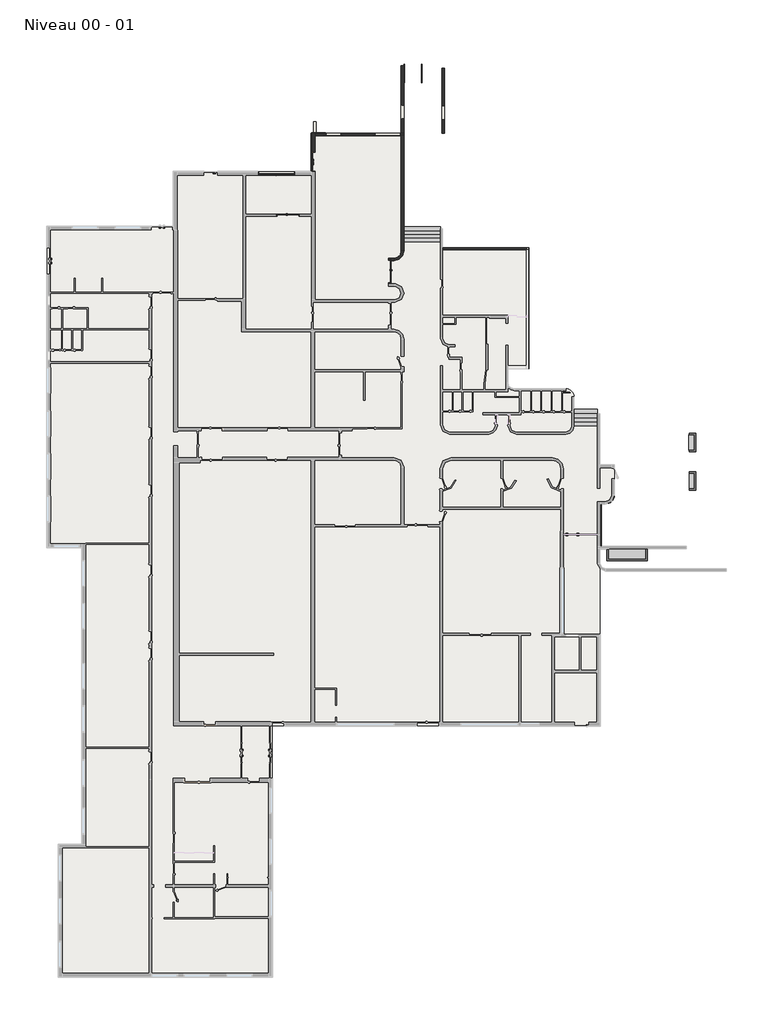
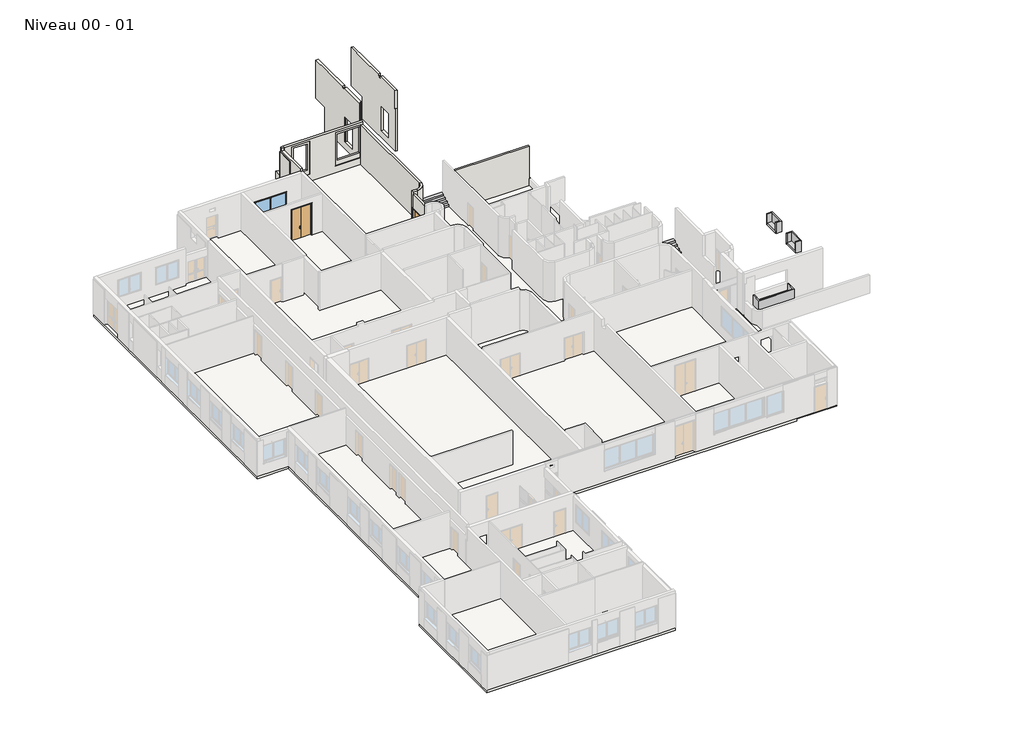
# One storey, part 8 of 8: 12 walls, 3 doors, 3 slabs, 2 railings, 2 stair flights, 1 proxy, 1 window.
"""IFC4 building model written with IfcOpenShell, lengths in millimetres."""

from ifc_helpers import new_model, si_unit, point, frame, frame_2d, origin, place, context, project, spatial, polyline, circle_curve, trimmed, segment, composite_curve, outline, extrude, faceted_brep, transform, mapped, element, save
from ifc_brep_helpers import plane_surface, cylinder_surface, revolved_surface, advanced_brep
from components import generic_models_9b63c0fc, door_1_43m_x_2_20m_f836d71d, double_r_1_73m_x_2_10m_c7e8f5c4, double_r_1_73m_x_2_9m_4bc1b3c2, au_mur_dd5918b3, au_mur_51ce0c62, window_280_x_220h_84bf4a63

model = new_model("IFC4")

# Units and contexts
model_context = context("Model", 3, world=origin())
ifc_project = project(units=[si_unit("LENGTHUNIT", "METRE", prefix="MILLI")], contexts=[model_context])

# Site, building, storey
site = spatial("IfcSite", under=ifc_project)
building = spatial("IfcBuilding", under=site)
storey = spatial("IfcBuildingStorey", under=building, Name="Niveau 00 - 01", Elevation=253.3082742)

# Proxy
placement = place(None, origin())
generic_models_shape = generic_models_9b63c0fc(model_context)
element("IfcBuildingElementProxy", 1, Name="Modèles génériques 3 : Modèles génériques 3", ObjectType="Modèles génériques 3 : Modèles génériques 3", at=placement, inside=storey, context=model_context, shape_type="MappedRepresentation", body=[
    mapped(generic_models_shape, transform((0.0, 0.0, 0.0), x_axis=(1.0, 0.0, 0.0), y_axis=(0.0, 1.0, 0.0), z_axis=(0.0, 0.0, 1.0))),
])

# Doors
door_1_43m_x_2_20m_shape = door_1_43m_x_2_20m_f836d71d(model_context)
element("IfcDoor", 2, ObjectType="PVC Double - Panneaux vitrés haut : 1.43m x 2.20m", at=placement, inside=storey, context=model_context, shape_type="MappedRepresentation", body=[
    mapped(door_1_43m_x_2_20m_shape, transform((-25653.9891729, 8582.6789506, 253.3082742), x_axis=(0.0, -1.0, 0.0), y_axis=(1.0, 0.0, 0.0), z_axis=(0.0, 0.0, 1.0))),
])
double_r_1_73m_x_2_10m_shape = double_r_1_73m_x_2_10m_c7e8f5c4(model_context)
element("IfcDoor", 3, ObjectType="Double (R) : 1.73m x 2.10m", at=placement, inside=storey, context=model_context, shape_type="MappedRepresentation", body=[
    mapped(double_r_1_73m_x_2_10m_shape, transform((-19823.4631762, 192.6117361, 253.3082742), x_axis=(0.0, 1.0, 0.0), y_axis=(-1.0, 0.0, 0.0), z_axis=(0.0, 0.0, 1.0))),
])
double_r_1_73m_x_2_9m_shape = double_r_1_73m_x_2_9m_4bc1b3c2(model_context)
element("IfcDoor", 4, ObjectType="Double (R) : 1.73m x 2.9m", at=placement, inside=storey, context=model_context, shape_type="MappedRepresentation", body=[
    mapped(double_r_1_73m_x_2_9m_shape, transform((-27603.9891728, 4497.0525562, 253.3082742), x_axis=(-1.0, -6.1910359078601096e-12, 0.0), y_axis=(6.1910359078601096e-12, -1.0, 0.0), z_axis=(0.0, 0.0, 1.0))),
])

# Railings
au_mur_shape = au_mur_dd5918b3(model_context)
element("IfcRailing", 5, ObjectType="Au Mur", at=placement, inside=storey, context=model_context, shape_type="MappedRepresentation", body=[
    mapped(au_mur_shape, transform((0.0, 0.0, 0.0), x_axis=(1.0, 0.0, 0.0), y_axis=(0.0, 1.0, 0.0), z_axis=(0.0, 0.0, 1.0))),
])
au_mur_2_shape = au_mur_51ce0c62(model_context)
element("IfcRailing", 6, ObjectType="Au Mur", at=placement, inside=storey, context=model_context, shape_type="MappedRepresentation", body=[
    mapped(au_mur_2_shape, transform((0.0, 0.0, 0.0), x_axis=(1.0, 0.0, 0.0), y_axis=(0.0, 1.0, 0.0), z_axis=(0.0, 0.0, 1.0))),
])

# Slabs
element("IfcSlab", 7, ObjectType="Dalle béton 250mm", at=placement, inside=storey, context=model_context, shape_type="SweptSolid", body=[
    extrude(outline(polyline([(-3752.669714, -34509.054307), (-7215.9483335, -34509.054307), (-7215.9483335, -30289.0543065), (-3752.669714, -30289.0543065), (-3752.669714, -34509.054307)])), frame((0.0, 0.0, 163.3082742), z_axis=(0.0, 0.0, 1.0), x_axis=(1.0, 0.0, 0.0)), (0.0, 0.0, 1.0), 250.0),
])
element("IfcSlab", 8, ObjectType="Dalle béton 250mm", at=placement, inside=storey, context=model_context, shape_type="SweptSolid", body=[
    extrude(outline(composite_curve([segment(polyline([(-3752.669714, -27517.519909), (-7215.9483335, -27517.519909), (-7215.9483335, -34509.054307), (-28823.0967815, -34509.054307), (-28823.0967815, -53701.1523244), (-45141.7005236, -53701.1523244), (-45141.7005236, -43617.1378769), (-43342.9002047, -43617.1378748), (-43342.9002047, -20866.6974201), (-46039.2374821, -20866.6974201), (-46039.2374821, 3664.644505), (-36383.9891745, 3664.644505), (-36383.9891745, 7822.6789506), (-25843.9891757, 7822.6789506), (-25843.9891757, 10750.8848592), (-18744.0938635, 10750.8848592), (-18744.0938635, 2894.3371166), (-15793.9891644, 2894.3371166), (-15793.9891644, 2020.9456807), (-9165.1685034, 2020.9456807), (-9165.1685034, -7221.1974072), (-10793.98917, -7221.1974072), (-10793.98917, -8771.2578612), (-6344.1439275, -8771.2578612)]), True, "CONTINUOUS"), segment(trimmed(circle_curve(frame_2d((-6342.6236695, -9370.1262083)), 598.8702767), [point((-6344.1439275, -8771.2578612))], [point((-5743.7533928, -9370.1262083))], False, "CARTESIAN"), True, "CONTINUOUS"), segment(polyline([(-5743.7533928, -9370.1262083), (-5743.7533928, -11150.4906117), (-3743.9891754, -11150.4906117), (-3743.9891754, -14590.322552), (-2632.6697104, -14590.322552), (-2632.6697104, -16886.0422479)]), True, "CONTINUOUS"), segment(trimmed(circle_curve(frame_2d((-3332.6697103, -16886.0422479)), 699.9999999), [point((-2632.6697104, -16886.0422479))], [point((-3332.6697103, -17586.0422479))], False, "CARTESIAN"), True, "CONTINUOUS"), segment(polyline([(-3332.6697103, -17586.0422479), (-3643.9891774, -17586.0422493), (-3643.9891774, -21006.25307), (-3752.669714, -21006.25307), (-3752.669714, -27517.519909)]), True, "CONTINUOUS")], self_intersect=False)), frame((0.0, 0.0, 3.3082742), z_axis=(0.0, 0.0, 1.0), x_axis=(1.0, 0.0, 0.0)), (0.0, 0.0, 1.0), 250.0),
])
element("IfcSlab", 9, ObjectType="Dalle béton 250mm", at=placement, inside=storey, context=model_context, shape_type="SweptSolid", body=[
    extrude(outline(polyline([(-3752.669714, -30289.0543065), (-7215.9483335, -30289.0543065), (-7215.9483335, -27517.519909), (-3752.669714, -27517.519909), (-3752.669714, -30289.0543065)])), frame((0.0, 0.0, 213.3082742), z_axis=(0.0, 0.0, 1.0), x_axis=(1.0, 0.0, 0.0)), (0.0, 0.0, 1.0), 250.0),
])

# Stair flights
element("IfcStairFlight", 10, ObjectType="Profondeur de structure 200 mm", at=placement, inside=storey, context=model_context, shape_type="Brep", body=[
    faceted_brep([(-5743.6869402, -11276.5819901, 413.3082742), (-5743.6869402, -11586.5819901, 413.3082742), (-3943.9891754, -11586.5819901, 413.3082742), (-3943.9891754, -11276.5819901, 413.3082742), (-5743.6869402, -11276.5819901, 253.3082742), (-5743.6869402, -11586.5819901, 253.3082742), (-3943.9891754, -11586.5819901, 253.3082742), (-3943.9891754, -11276.5819901, 253.3082742), (-5743.6869402, -10966.5819901, 573.3082742), (-5743.6869402, -11276.5819901, 573.3082742), (-3943.9891754, -11276.5819901, 573.3082742), (-3943.9891754, -10966.5819901, 573.3082742), (-5743.6869402, -10966.5819901, 348.2403576), (-5743.6869402, -11150.5129016, 253.3082742), (-3943.9891754, -11150.5129016, 253.3082742), (-3943.9891754, -10966.5819901, 348.2403576), (-5743.6869402, -10656.5819901, 733.3082742), (-5743.6869402, -10966.5819901, 733.3082742), (-3943.9891754, -10966.5819901, 733.3082742), (-3943.9891754, -10656.5819901, 733.3082742), (-5743.6869402, -10656.5819901, 508.2403576), (-3943.9891754, -10656.5819901, 508.2403576), (-5743.6869402, -10346.5819901, 668.2403576), (-3943.9891754, -10346.5819901, 668.2403576), (-5743.6869402, -10346.5819901, 893.3082742), (-5743.6869402, -10656.5819901, 893.3082742), (-3943.9891754, -10656.5819901, 893.3082742), (-3943.9891754, -10346.5819901, 893.3082742), (-3943.9891754, -10346.5819901, 693.3082742)], [[[0, 1, 2, 3]], [[1, 0, 4, 5]], [[2, 1, 5, 6]], [[3, 2, 6, 7]], [[8, 9, 10, 11]], [[4, 0, 9, 8, 12, 13]], [[0, 3, 10, 9]], [[3, 7, 14, 15, 11, 10]], [[16, 17, 18, 19]], [[17, 16, 20, 12, 8]], [[8, 11, 18, 17]], [[19, 18, 11, 15, 21]], [[5, 4, 13, 14, 7, 6]], [[14, 13, 12, 20, 22, 23, 21, 15]], [[24, 25, 26, 27]], [[25, 24, 22, 20, 16]], [[16, 19, 26, 25]], [[27, 26, 19, 21, 23, 28]], [[24, 27, 28, 23, 22]]]),
])
element("IfcStairFlight", 11, ObjectType="Profondeur de structure 200 mm", at=placement, inside=storey, context=model_context, shape_type="Brep", body=[
    faceted_brep([(-18743.9891727, 2768.7206382, 413.3082742), (-18743.9891727, 2488.7206382, 413.3082742), (-15943.9891644, 2488.7206382, 413.3082742), (-15943.9891644, 2768.7206382, 413.3082742), (-18743.9891727, 2768.7206382, 253.3082742), (-18743.9891727, 2488.7206382, 253.3082742), (-15943.9891644, 2488.7206382, 253.3082742), (-15943.9891644, 2768.7206382, 253.3082742), (-18743.9891727, 3048.7206382, 573.3082742), (-18743.9891727, 2768.7206382, 573.3082742), (-15943.9891644, 2768.7206382, 573.3082742), (-15943.9891644, 3048.7206382, 573.3082742), (-18743.9891727, 3048.7206382, 342.9580529), (-18743.9891727, 2891.8335256, 253.3082742), (-15943.9891644, 2891.8335256, 253.3082742), (-15943.9891644, 3048.7206382, 342.9580529), (-18743.9891727, 3328.7206382, 733.3082742), (-18743.9891727, 3048.7206382, 733.3082742), (-15943.9891644, 3048.7206382, 733.3082742), (-15943.9891644, 3328.7206382, 733.3082742), (-18743.9891727, 3328.7206382, 502.9580529), (-15943.9891644, 3328.7206382, 502.9580529), (-18743.9891727, 3608.7206382, 662.9580529), (-15943.9891644, 3608.7206382, 662.9580529), (-18743.9891727, 3608.7206382, 893.3082742), (-18743.9891727, 3328.7206382, 893.3082742), (-15943.9891644, 3328.7206382, 893.3082742), (-15943.9891644, 3608.7206382, 893.3082742)], [[[0, 1, 2, 3]], [[1, 0, 4, 5]], [[2, 1, 5, 6]], [[3, 2, 6, 7]], [[8, 9, 10, 11]], [[4, 0, 9, 8, 12, 13]], [[0, 3, 10, 9]], [[3, 7, 14, 15, 11, 10]], [[16, 17, 18, 19]], [[17, 16, 20, 12, 8]], [[8, 11, 18, 17]], [[19, 18, 11, 15, 21]], [[5, 4, 13, 14, 7, 6]], [[14, 13, 12, 20, 22, 23, 21, 15]], [[24, 25, 26, 27]], [[25, 24, 22, 20, 16]], [[16, 19, 26, 25]], [[27, 26, 19, 21, 23]], [[24, 27, 23, 22]]]),
])

# Walls
element("IfcWall", 12, ObjectType="Mur EXE 200- Hach", at=placement, inside=storey, context=model_context, shape_type="AdvancedBrep", body=[
    advanced_brep(
    [(-18944.0938634, 14674.5706195, 253.3082742), (-18944.0938634, 10780.8848589, 253.3082742), (-18944.0938634, 10780.8848589, 4121.8727639), (-18944.0938634, 10780.8848589, 5771.8727639), (-18944.0938634, 10820.8848592, 5771.8727639), (-18944.0938634, 13008.7839151, 5771.8727639), (-18944.0938634, 13008.7839151, 5621.8727639), (-18944.0938634, 13328.7839151, 5621.8727639), (-18944.0938634, 13328.7839151, 5771.8727639), (-18944.0938634, 15808.6255348, 5771.8727639), (-18944.0938634, 17264.7754256, 5771.8727639), (-18944.0938634, 17264.7754256, 2253.3082742), (-18944.0938634, 15918.9515884, 2253.3082742), (-18944.0938634, 15918.9515884, 2113.3082742), (-18944.0938634, 15918.9515884, -316.6917258), (-18944.0938634, 15918.9515884, -486.1940615), (-18944.0938634, 12911.9176444, 893.3082742), (-18944.0938634, 12951.9176444, 893.3082742), (-18944.0938634, 12951.9176444, 3143.3082742), (-18944.0938634, 11821.9176444, 3143.3082742), (-18944.0938634, 11821.9176444, 893.3082742), (-18944.0938634, 11861.9176444, 893.3082742), (-18744.0938634, 10780.8848589, 253.3082742), (-18744.0938634, 14674.5706195, 253.3082742), (-18744.0938634, 15918.9515884, -486.1940615), (-18744.0938634, 15918.9515884, 2253.3082742), (-18744.0938634, 17286.9701556, 2253.3082742), (-18744.0938634, 17286.9701556, 5771.8727639), (-18744.0938634, 15796.8921154, 5771.8727639), (-18744.0938634, 13328.7839151, 5771.8727639), (-18744.0938634, 13328.7839151, 5621.8727639), (-18744.0938634, 13008.7839151, 5621.8727639), (-18744.0938634, 13008.7839151, 5771.8727639), (-18744.0938634, 10820.8848592, 5771.8727639), (-18744.0938634, 10820.8848592, 4121.8727639), (-18744.0938634, 10810.8848592, 4121.8727639), (-18744.0938634, 10810.8848592, 5771.8727639), (-18744.0938634, 10780.8848589, 5771.8727639), (-18744.0938634, 10780.8848589, 4121.8727639), (-18744.0938634, 11861.9176444, 3103.3082742), (-18744.0938634, 12911.9176444, 3103.3082742), (-18744.0938634, 12911.9176444, 893.3082742), (-18744.0938634, 11861.9176444, 893.3082742), (-18894.0938634, 11861.9176444, 3103.3082742), (-18894.0938634, 12911.9176444, 3103.3082742), (-18894.0938634, 12911.9176444, 893.3082742), (-18894.0938634, 12951.9176444, 893.3082742), (-18894.0938634, 11821.9176444, 893.3082742), (-18894.0938634, 11861.9176444, 893.3082742), (-18894.0938634, 12951.9176444, 3143.3082742), (-18894.0938634, 11821.9176444, 3143.3082742), (-18784.0938634, 10785.8848592, 4121.8727639), (-18759.0938634, 10810.8848592, 4121.8727639), (-18914.0938634, 10820.8848592, 4121.8727639), (-18914.0938634, 10810.8848592, 4121.8727639), (-18869.0938634, 10810.8848592, 4121.8727639), (-18844.0938634, 10785.8848592, 4121.8727639), (-18844.0938634, 10780.8848589, 4121.8727639), (-18784.0938634, 10780.8848589, 4121.8727639), (-18784.0938634, 10785.8848592, 5771.8727639), (-18784.0938634, 10780.8848589, 5771.8727639), (-18759.0938634, 10810.8848592, 5771.8727639), (-18914.0938634, 10820.8848592, 5771.8727639), (-18914.0938634, 10810.8848592, 5771.8727639), (-18869.0938634, 10810.8848592, 5771.8727639), (-18844.0938634, 10785.8848592, 5771.8727639), (-18844.0938634, 10780.8848589, 5771.8727639)],
    [
        (0, 1),
        (1, 2),
        (2, 3),
        (3, 4),
        (4, 5),
        (5, 6),
        (6, 7),
        (7, 8),
        (8, 9),
        (9, 10),
        (10, 11),
        (11, 12),
        (12, 13),
        (13, 14),
        (14, 15),
        (15, 0),
        (16, 17),
        (17, 18),
        (18, 19),
        (19, 20),
        (20, 21),
        (21, 16),
        (22, 23),
        (23, 24),
        (24, 25),
        (25, 26),
        (26, 27),
        (27, 28),
        (28, 29),
        (29, 30),
        (30, 31),
        (31, 32),
        (32, 33),
        (33, 34),
        (34, 35),
        (35, 36),
        (36, 37),
        (37, 38),
        (38, 22),
        (39, 40),
        (40, 41),
        (41, 42),
        (42, 39),
        (10, 27),
        (26, 11),
        (43, 44),
        (44, 40),
        (39, 43),
        (45, 46),
        (46, 17),
        (20, 47),
        (47, 48),
        (48, 42),
        (41, 45),
        (44, 45),
        (48, 43),
        (46, 49),
        (49, 18),
        (47, 50),
        (50, 49),
        (50, 19),
        (31, 6),
        (5, 32),
        (7, 30),
        (29, 8),
        (51, 52, circle_curve(frame((-18759.0938634, 10785.8848592, 4121.8727639), z_axis=(0.0, 0.0, -1.0), x_axis=(-1.0, 0.0, 0.0)), 25.0)),
        (52, 35),
        (34, 53),
        (53, 54),
        (54, 55),
        (55, 56, circle_curve(frame((-18869.0938634, 10785.8848592, 4121.8727639), z_axis=(0.0, 0.0, -1.0), x_axis=(-1.0, 0.0, 0.0)), 25.0)),
        (56, 57),
        (57, 58),
        (58, 51),
        (59, 51),
        (58, 60),
        (60, 59),
        (59, 61, circle_curve(frame((-18759.0938634, 10785.8848592, 5771.8727639), z_axis=(0.0, 0.0, -1.0), x_axis=(-1.0, 0.0, 0.0)), 25.0)),
        (61, 52),
        (61, 36),
        (33, 62),
        (62, 53),
        (62, 63),
        (63, 54),
        (63, 64),
        (64, 55),
        (64, 65, circle_curve(frame((-18869.0938634, 10785.8848592, 5771.8727639), z_axis=(0.0, 0.0, -1.0), x_axis=(-1.0, 0.0, 0.0)), 25.0)),
        (65, 56),
        (65, 66),
        (66, 57),
        (0, 23),
        (22, 1),
        (3, 66),
        (60, 37),
        (25, 12),
        (15, 24),
    ],
    [
        plane_surface(frame((-18944.0938634, 17276.3057989, 2253.3082742), z_axis=(-1.0, 0.0, 0.0), x_axis=(0.0, -1.0, 0.0))),
        plane_surface(frame((-18744.0938634, 17276.3057989, 2253.3082742), z_axis=(1.0, 0.0, 0.0), x_axis=(0.0, 1.0, 0.0))),
        plane_surface(frame((-18744.0938634, 17286.9701556, 253.3082742), z_axis=(-0.11029656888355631, 0.9938987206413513, 0.0), x_axis=(-0.9938987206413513, -0.11029656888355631, 0.0))),
        plane_surface(frame((-18444.0938634, 12911.9176444, 3103.3082742), z_axis=(0.0, 0.0, -1.0), x_axis=(0.0, 1.0, 0.0))),
        plane_surface(frame((-18444.0938634, 12911.9176444, 893.3082742), z_axis=(0.0, 0.0, 1.0), x_axis=(0.0, -1.0, 0.0))),
        plane_surface(frame((-18444.0938634, 12911.9176444, 3103.3082742), z_axis=(0.0, -1.0, 0.0), x_axis=(0.0, 0.0, -1.0))),
        plane_surface(frame((-19244.0938634, 11861.9176444, 3103.3082742), z_axis=(0.0, 1.0, 0.0), x_axis=(0.0, 0.0, -1.0))),
        plane_surface(frame((-18944.0938634, 12951.9176444, 893.3082742), z_axis=(0.0, -1.0, 0.0), x_axis=(0.0, 0.0, 1.0))),
        plane_surface(frame((-18894.0938634, 12951.9176444, 893.3082742), z_axis=(-1.0, 0.0, 0.0), x_axis=(0.0, 0.0, 1.0))),
        plane_surface(frame((-18944.0938634, 12951.9176444, 3143.3082742), z_axis=(0.0, 0.0, -1.0), x_axis=(0.0, -1.0, 0.0))),
        plane_surface(frame((-18944.0938634, 11821.9176444, 3143.3082742), z_axis=(0.0, 1.0, 0.0), x_axis=(0.0, 0.0, -1.0))),
        plane_surface(frame((-20468.0938634, 13008.7839151, 5621.8727639), z_axis=(0.0, 1.0, 0.0), x_axis=(1.0, 0.0, 0.0))),
        plane_surface(frame((-20468.0938634, 13328.7839151, 6671.8727639), z_axis=(0.0, -1.0, 0.0), x_axis=(1.0, 0.0, 0.0))),
        plane_surface(frame((-20468.0938634, 13328.7839151, 5621.8727639), z_axis=(0.0, 0.0, 1.0), x_axis=(1.0, 0.0, 0.0))),
        plane_surface(frame((-18809.0938634, 10758.181181, 4121.8727639), z_axis=(0.0, 0.0, 1.0), x_axis=(0.0, -1.0, 0.0))),
        plane_surface(frame((-18784.0938634, 10765.681181, 7371.8727639), z_axis=(-1.0, 0.0, 0.0), x_axis=(0.0, 0.0, -1.0))),
        cylinder_surface(frame((-18759.0938634, 10785.8848592, 4121.8727639), z_axis=(0.0, 0.0, -1.0), x_axis=(-1.0, 0.0, 0.0)), 25.0),
        plane_surface(frame((-18759.0938634, 10810.8848592, 7371.8727639), z_axis=(0.0, 1.0, 0.0), x_axis=(0.0, 0.0, -1.0))),
        plane_surface(frame((-18714.0938634, 10820.8848592, 7371.8727639), z_axis=(0.0, -1.0, 0.0), x_axis=(0.0, 0.0, -1.0))),
        plane_surface(frame((-18914.0938634, 10820.8848592, 7371.8727639), z_axis=(1.0, 0.0, 0.0), x_axis=(0.0, 0.0, -1.0))),
        plane_surface(frame((-18914.0938634, 10810.8848592, 7371.8727639), z_axis=(0.0, 1.0, 0.0), x_axis=(0.0, 0.0, -1.0))),
        cylinder_surface(frame((-18869.0938634, 10785.8848592, 4121.8727639), z_axis=(0.0, 0.0, -1.0), x_axis=(-1.0, 0.0, 0.0)), 25.0),
        plane_surface(frame((-18844.0938634, 10785.8848592, 7371.8727639), z_axis=(1.0, 0.0, 0.0), x_axis=(0.0, 0.0, -1.0))),
        plane_surface(frame((-18944.0938634, 14674.5706195, 253.3082742), z_axis=(0.0, 0.0, -1.0), x_axis=(1.0, 0.0, 0.0))),
        plane_surface(frame((-18944.0938634, 10470.8848589, 5771.8727639), z_axis=(0.0, 0.0, 1.0), x_axis=(1.0, 0.0, 0.0))),
        plane_surface(frame((-18944.0938634, 17276.3057989, 2253.3082742), z_axis=(0.0, 0.0, -1.0), x_axis=(1.0, 0.0, 0.0))),
        plane_surface(frame((-18944.0938634, 15818.9515884, -426.7667354), z_axis=(0.0, -0.5108712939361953, -0.8596572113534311), x_axis=(1.0, 0.0, 0.0))),
        plane_surface(frame((-18714.0853612, 15918.9515884, -316.6917258), z_axis=(0.0, 1.0, 0.0), x_axis=(-1.0, 0.0, 0.0))),
        plane_surface(frame((-25918.6362599, 10780.8848589, 253.3082742), z_axis=(0.0, -1.0, 0.0), x_axis=(-1.0, 0.0, 0.0))),
    ],
    [
        (0, [[1, 2, 3, 4, 5, 6, 7, 8, 9, 10, 11, 12, 13, 14, 15, 16], [17, 18, 19, 20, 21, 22]]),
        (1, [[23, 24, 25, 26, 27, 28, 29, 30, 31, 32, 33, 34, 35, 36, 37, 38, 39], [40, 41, 42, 43]]),
        (2, [[-11, 44, -27, 45]]),
        (3, [[46, 47, -40, 48]]),
        (4, [[49, 50, -17, -22, -21, 51, 52, 53, -42, 54]]),
        (5, [[55, -54, -41, -47]]),
        (6, [[56, -48, -43, -53]]),
        (7, [[-50, 57, 58, -18]]),
        (8, [[-46, -56, -52, 59, 60, -57, -49, -55]]),
        (9, [[-58, -60, 61, -19]]),
        (10, [[-51, -20, -61, -59]]),
        (11, [[62, -6, 63, -32]]),
        (12, [[64, -30, 65, -8]]),
        (13, [[-62, -31, -64, -7]]),
        (14, [[66, 67, -35, 68, 69, 70, 71, 72, 73, 74]]),
        (15, [[75, -74, 76, 77]]),
        (16, [[-66, -75, 78, 79]]),
        (17, [[-67, -79, 80, -36]]),
        (18, [[-68, -34, 81, 82]]),
        (19, [[-69, -82, 83, 84]]),
        (20, [[-70, -84, 85, 86]]),
        (21, [[-71, -86, 87, 88]]),
        (22, [[-72, -88, 89, 90]]),
        (23, [[-1, 91, -23, 92]]),
        (24, [[-5, -4, 93, -89, -87, -85, -83, -81, -33, -63]]),
        (24, [[-10, -9, -65, -29, -28, -44]]),
        (24, [[-37, -80, -78, -77, 94]]),
        (25, [[-12, -45, -26, 95]]),
        (26, [[-16, 96, -24, -91]]),
        (27, [[-15, -14, -13, -95, -25, -96]]),
        (28, [[-39, -38, -94, -76, -73, -90, -93, -3, -2, -92]]),
    ],
),
])
element("IfcWall", 13, ObjectType="Mur EXE 200- Hach", at=placement, inside=storey, context=model_context, shape_type="AdvancedBrep", body=[
    advanced_brep(
    [(-15835.8209314, 15718.9515884, 253.3082742), (-15835.8209314, 10780.8848589, 253.3082742), (-15835.8209314, 10780.8848589, 3871.8727639), (-15835.8209314, 10780.8848589, 4121.8727639), (-15835.8209314, 10820.8848592, 4121.8727639), (-15835.8209314, 10820.8848592, 5771.8727639), (-15835.8209314, 13008.7839151, 5771.8727639), (-15835.8209314, 13008.7839151, 5621.8727639), (-15835.8209314, 13328.7839151, 5621.8727639), (-15835.8209314, 13328.7839151, 5771.8727639), (-15835.8209314, 15675.5365527, 5771.8727639), (-15835.8209314, 17396.0043299, 5771.8727639), (-15835.8209314, 17396.0043299, 5571.8727639), (-15835.8209314, 17396.0043299, 2313.3082742), (-15835.8209314, 17396.0043299, 2253.3082742), (-15835.8209314, 15718.9515884, 2253.3082742), (-15835.8209314, 12851.9176444, 3103.3082742), (-15835.8209314, 11801.9176444, 3103.3082742), (-15835.8209314, 11801.9176444, 893.3082742), (-15835.8209314, 12851.9176444, 893.3082742), (-15635.8209314, 10780.8848589, 253.3082742), (-15635.8209314, 15718.9515884, 253.3082742), (-15635.8209314, 15718.9515884, 2253.3082742), (-15635.8209314, 17396.0043299, 2253.3082742), (-15635.8209314, 17396.0043299, 2313.3082742), (-15635.8209314, 17338.8611498, 2313.3082742), (-15635.8209314, 17338.8611498, 5571.8727639), (-15635.8209314, 17396.0043299, 5571.8727639), (-15635.8209314, 17396.0043299, 5771.8727639), (-15635.8209314, 15679.1842642, 5771.8727639), (-15635.8209314, 13328.7839151, 5771.8727639), (-15635.8209314, 13328.7839151, 5621.8727639), (-15635.8209314, 13008.7839151, 5621.8727639), (-15635.8209314, 13008.7839151, 5771.8727639), (-15635.8209314, 10820.8848592, 5771.8727639), (-15635.8209314, 10820.8848592, 4121.8727639), (-15635.8209314, 10780.8848589, 4121.8727639), (-15635.8209314, 10780.8848589, 3741.8727639), (-15635.8209314, 10780.8848589, 3723.3082742), (-15635.8209314, 10780.8848589, 1323.3082742), (-15635.8209314, 10780.8848589, 893.3082742), (-15635.8209314, 11801.9176444, 893.3082742), (-15635.8209314, 11761.9176444, 893.3082742), (-15635.8209314, 11761.9176444, 3143.3082742), (-15635.8209314, 12891.9176444, 3143.3082742), (-15635.8209314, 12891.9176444, 893.3082742), (-15635.8209314, 12851.9176444, 893.3082742), (-15784.0938634, 10780.8848589, 4121.8727639), (-15714.0938634, 10820.8848592, 4121.8727639), (-15714.0938634, 10820.8848592, 5771.8727639), (-15785.3290832, 17396.0043299, 5571.8727639), (-15785.3290832, 17396.0043299, 2313.3082742), (-15812.8703279, 17315.7242019, 2313.3082742), (-15658.771535, 17272.6711876, 2313.3082742), (-15658.771535, 17272.6711876, 5571.8727639), (-15812.8703279, 17315.7242019, 5571.8727639), (-15685.8209314, 12851.9176444, 3103.3082742), (-15685.8209314, 11801.9176444, 3103.3082742), (-15685.8209314, 12891.9176444, 893.3082742), (-15685.8209314, 12851.9176444, 893.3082742), (-15685.8209314, 11801.9176444, 893.3082742), (-15685.8209314, 11761.9176444, 893.3082742), (-15685.8209314, 12891.9176444, 3143.3082742), (-15685.8209314, 11761.9176444, 3143.3082742)],
    [
        (0, 1),
        (1, 2),
        (2, 3),
        (3, 4),
        (4, 5),
        (5, 6),
        (6, 7),
        (7, 8),
        (8, 9),
        (9, 10),
        (10, 11),
        (11, 12),
        (12, 13),
        (13, 14),
        (14, 15),
        (15, 0),
        (16, 17),
        (17, 18),
        (18, 19),
        (19, 16),
        (20, 21),
        (21, 22),
        (22, 23),
        (23, 24),
        (24, 25),
        (25, 26),
        (26, 27),
        (27, 28),
        (28, 29),
        (29, 30),
        (30, 31),
        (31, 32),
        (32, 33),
        (33, 34),
        (34, 35),
        (35, 36),
        (36, 37),
        (37, 38),
        (38, 39),
        (39, 40),
        (40, 20),
        (41, 42),
        (42, 43),
        (43, 44),
        (44, 45),
        (45, 46),
        (46, 41),
        (1, 20),
        (36, 47),
        (47, 3),
        (4, 48),
        (48, 35),
        (34, 49),
        (49, 5),
        (11, 28),
        (27, 50),
        (50, 51),
        (51, 24),
        (23, 14),
        (52, 53),
        (53, 25, circle_curve(frame((-15108.3266886, 17118.884715, 2313.3082742), z_axis=(0.0, 0.0, -1.0), x_axis=(0.0, 1.0, 0.0)), 571.5241098)),
        (51, 52, circle_curve(frame((-15108.3266886, 17118.884715, 2313.3082742), z_axis=(0.0, 0.0, 1.0), x_axis=(0.0, 1.0, 0.0)), 731.5241098)),
        (53, 54),
        (54, 26, circle_curve(frame((-15108.3266886, 17118.884715, 5571.8727639), z_axis=(0.0, 0.0, -1.0), x_axis=(0.0, 1.0, 0.0)), 571.5241098)),
        (55, 52),
        (50, 55, circle_curve(frame((-15108.3266886, 17118.884715, 5571.8727639), z_axis=(0.0, 0.0, 1.0), x_axis=(0.0, 1.0, 0.0)), 731.5241098)),
        (55, 54),
        (56, 57),
        (57, 17),
        (16, 56),
        (58, 59),
        (59, 19),
        (18, 60),
        (60, 61),
        (61, 42),
        (45, 58),
        (59, 56),
        (57, 60),
        (44, 62),
        (62, 58),
        (62, 63),
        (63, 61),
        (43, 63),
        (0, 21),
        (9, 30),
        (33, 6),
        (22, 15),
        (32, 7),
        (8, 31),
    ],
    [
        plane_surface(frame((-15835.8209314, 17321.0043299, 2253.3082742), z_axis=(-1.0, 0.0, 0.0), x_axis=(0.0, -1.0, 0.0))),
        plane_surface(frame((-15635.8209314, 17321.0043299, 2253.3082742), z_axis=(1.0, 0.0, 0.0), x_axis=(0.0, 1.0, 0.0))),
        plane_surface(frame((-14028.1532696, 10780.8848589, 893.3082742), z_axis=(0.0, -1.0, 0.0), x_axis=(-1.0, 0.0, 0.0))),
        plane_surface(frame((-25323.9891749, 10820.8848592, 4121.8727639), z_axis=(0.0, -1.0, 0.0), x_axis=(-1.0, 0.0, 0.0))),
        plane_surface(frame((-12442.8151053, 17396.0043299, 2313.3082742), z_axis=(0.0, 1.0, 0.0), x_axis=(-1.0, 0.0, 0.0))),
        plane_surface(frame((-15108.3266886, 17690.4088248, 2313.3082742), z_axis=(0.0, 0.0, 1.0), x_axis=(-1.0, 0.0, 0.0))),
        cylinder_surface(frame((-15108.3266886, 17118.884715, 2313.3082742), z_axis=(0.0, 0.0, -1.0), x_axis=(0.0, 1.0, 0.0)), 571.5241098),
        revolved_surface(polyline([(-15108.3266886, 17850.4088248, 5571.8727639), (-15108.3266886, 17850.4088248, 2313.3082742)]), (-15108.3266886, 17118.884715, 2313.3082742), (0.0, 0.0, 1.0)),
        plane_surface(frame((-15812.8703279, 17315.7242019, 5571.8727639), z_axis=(0.269081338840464, 0.9631174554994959, 0.0), x_axis=(0.0, 0.0, -1.0))),
        plane_surface(frame((-22586.1843928, 15631.1606676, 5571.8727639), z_axis=(0.0, 0.0, -1.0), x_axis=(-1.0, 0.0, 0.0))),
        plane_surface(frame((-16135.8209314, 12851.9176444, 3103.3082742), z_axis=(0.0, 0.0, -1.0), x_axis=(0.0, 1.0, 0.0))),
        plane_surface(frame((-16135.8209314, 12851.9176444, 893.3082742), z_axis=(0.0, 0.0, 1.0), x_axis=(0.0, -1.0, 0.0))),
        plane_surface(frame((-16135.8209314, 12851.9176444, 3103.3082742), z_axis=(0.0, -1.0, 0.0), x_axis=(0.0, 0.0, -1.0))),
        plane_surface(frame((-15335.8209314, 11801.9176444, 3103.3082742), z_axis=(0.0, 1.0, 0.0), x_axis=(0.0, 0.0, -1.0))),
        plane_surface(frame((-15635.8209314, 12891.9176444, 893.3082742), z_axis=(0.0, -1.0, 0.0), x_axis=(0.0, 0.0, 1.0))),
        plane_surface(frame((-15685.8209314, 12891.9176444, 893.3082742), z_axis=(1.0, 0.0, 0.0), x_axis=(0.0, 0.0, 1.0))),
        plane_surface(frame((-15635.8209314, 12891.9176444, 3143.3082742), z_axis=(0.0, 0.0, -1.0), x_axis=(0.0, -1.0, 0.0))),
        plane_surface(frame((-15635.8209314, 11761.9176444, 3143.3082742), z_axis=(0.0, 1.0, 0.0), x_axis=(0.0, 0.0, -1.0))),
        plane_surface(frame((-15835.8209314, 15818.9515884, 253.3082742), z_axis=(0.0, 0.0, -1.0), x_axis=(1.0, 0.0, 0.0))),
        plane_surface(frame((-15835.8209314, 10680.8848589, 5771.8727639), z_axis=(0.0, 0.0, 1.0), x_axis=(1.0, 0.0, 0.0))),
        plane_surface(frame((-15835.8209314, 10680.8848589, 4121.8727639), z_axis=(0.0, 0.0, 1.0), x_axis=(1.0, 0.0, 0.0))),
        plane_surface(frame((-15835.8209314, 17321.0043299, 2253.3082742), z_axis=(0.0, 0.0, -1.0), x_axis=(1.0, 0.0, 0.0))),
        plane_surface(frame((-17535.1086973, 15718.9515884, -316.6917258), z_axis=(0.0, 1.0, 0.0), x_axis=(1.0, 0.0, 0.0))),
        plane_surface(frame((-17159.8209314, 13008.7839151, 5621.8727639), z_axis=(0.0, 1.0, 0.0), x_axis=(1.0, 0.0, 0.0))),
        plane_surface(frame((-17159.8209314, 13328.7839151, 6671.8727639), z_axis=(0.0, -1.0, 0.0), x_axis=(1.0, 0.0, 0.0))),
        plane_surface(frame((-17159.8209314, 13328.7839151, 5621.8727639), z_axis=(0.0, 0.0, 1.0), x_axis=(1.0, 0.0, 0.0))),
    ],
    [
        (0, [[1, 2, 3, 4, 5, 6, 7, 8, 9, 10, 11, 12, 13, 14, 15, 16], [17, 18, 19, 20]]),
        (1, [[21, 22, 23, 24, 25, 26, 27, 28, 29, 30, 31, 32, 33, 34, 35, 36, 37, 38, 39, 40, 41], [42, 43, 44, 45, 46, 47]]),
        (2, [[-3, -2, 48, -41, -40, -39, -38, -37, 49, 50]]),
        (3, [[-5, 51, 52, -35, 53, 54]]),
        (4, [[-14, -13, -12, 55, -28, 56, 57, 58, -24, 59]]),
        (5, [[60, 61, -25, -58, 62]]),
        (6, [[63, 64, -26, -61]]),
        (7, [[65, -62, -57, 66]]),
        (8, [[-60, -65, 67, -63]]),
        (9, [[-67, -66, -56, -27, -64]]),
        (10, [[68, 69, -17, 70]]),
        (11, [[71, 72, -19, 73, 74, 75, -42, -47, -46, 76]]),
        (12, [[77, -70, -20, -72]]),
        (13, [[78, -73, -18, -69]]),
        (14, [[-76, -45, 79, 80]]),
        (15, [[-68, -77, -71, -80, 81, 82, -74, -78]]),
        (16, [[-79, -44, 83, -81]]),
        (17, [[-75, -82, -83, -43]]),
        (18, [[-1, 84, -21, -48]]),
        (19, [[-55, -11, -10, 85, -30, -29]]),
        (19, [[-6, -54, -53, -34, 86]]),
        (20, [[-4, -50, -49, -36, -52, -51]]),
        (21, [[-15, -59, -23, 87]]),
        (22, [[-16, -87, -22, -84]]),
        (23, [[88, -7, -86, -33]]),
        (24, [[89, -31, -85, -9]]),
        (25, [[-88, -32, -89, -8]]),
    ],
),
])
element("IfcWall", 14, ObjectType="Mur EXE 200- Hach", at=placement, inside=storey, context=model_context, shape_type="Brep", body=[
    faceted_brep([(-25453.9891729, 10780.8848589, 135.257922), (-25453.9891729, 11645.6501858, 135.257922), (-25453.9891729, 11645.6501858, 152.0000004), (-25453.9891729, 10812.9657021, 152.0000004), (-25453.9891729, 10812.9657021, 252.0000004), (-25453.9891729, 11645.6501858, 252.0000004), (-25453.9891729, 11645.6501858, 1327.8312309), (-25453.9891729, 10780.8848589, 1327.8312309), (-25653.9891729, 10780.8848589, 1327.8312309), (-25653.9891729, 11645.6501858, 1327.8312309), (-25653.9891729, 11645.6501858, 229.1067404), (-25653.9891729, 11427.592341, 225.3333337), (-25653.9891729, 10819.1366316, 225.3333337), (-25653.9891729, 10819.1366316, 135.257922), (-25653.9891729, 10780.8848589, 135.257922), (-25653.9891729, 10780.8848589, 313.3082742), (-25653.9891729, 10780.8848589, 1298.0838649), (-25579.5547608, 10816.8399841, 135.257922), (-25579.5547608, 11645.6501858, 135.257922), (-25585.2346923, 11645.6501858, 234.5005978)], [[[0, 1, 2, 3, 4, 5, 6, 7]], [[8, 9, 10, 11, 12, 13, 14, 15, 16]], [[1, 0, 14, 13, 17, 18]], [[7, 6, 9, 8]], [[0, 7, 8, 16, 15, 14]], [[9, 6, 5, 19, 10]], [[2, 1, 18]], [[12, 4, 3, 17, 13]], [[19, 11, 10]], [[4, 12, 11, 19, 5]], [[17, 3, 2, 18]]]),
])
element("IfcWall", 15, ObjectType="Mur EXE 40- Hach", at=placement, inside=storey, context=model_context, shape_type="Brep", body=[
    faceted_brep([(-25753.9891729, 9307.6789506, 253.3082742), (-25753.9891729, 10780.8848589, 253.3082742), (-25753.9891729, 10780.8848589, 3671.8727639), (-25753.9891729, 9307.6789506, 3671.8727639), (-25793.9891729, 9307.6789506, 253.3082742), (-25793.9891729, 9307.6789506, 3671.8727639), (-25793.9891729, 10780.8848589, 3671.8727639), (-25793.9891729, 10780.8848589, 313.3082742), (-25793.9891729, 10780.8848589, 253.3082742)], [[[0, 1, 2, 3]], [[4, 5, 6, 7, 8]], [[1, 0, 4, 8]], [[3, 2, 6, 5]], [[0, 3, 5, 4]], [[2, 1, 8, 7, 6]]]),
])
element("IfcWall", 16, ObjectType="Mur EXE 40- Hach", at=placement, inside=storey, context=model_context, shape_type="Brep", body=[
    faceted_brep([(-25793.9891729, 10780.8848589, 313.3082742), (-25653.9891729, 10780.8848589, 313.3082742), (-25653.9891729, 10780.8848589, 1298.0838649), (-24750.1626983, 10780.8848589, 1298.0838649), (-24750.1626983, 10780.8848589, 3671.8727639), (-25753.9891729, 10780.8848589, 3671.8727639), (-25793.9891729, 10780.8848589, 3671.8727639), (-25793.9891729, 10820.8848589, 313.3082742), (-25793.9891729, 10820.8848589, 3671.8727639), (-24750.1626983, 10820.8848589, 3671.8727639), (-24750.1626983, 10820.8848589, 1298.0838649), (-25653.9891729, 10820.8848589, 1298.0838649), (-25653.9891729, 10820.8848589, 313.3082742)], [[[0, 1, 2, 3, 4, 5, 6]], [[7, 8, 9, 10, 11, 12]], [[4, 3, 10, 9]], [[0, 6, 8, 7]], [[3, 2, 11, 10]], [[6, 5, 4, 9, 8]], [[1, 0, 7, 12]], [[2, 1, 12, 11]]]),
])
element("IfcWall", 17, ObjectType="Ext. Voile BA 150", at=placement, inside=storey, context=model_context, shape_type="Brep", body=[
    faceted_brep([(-15793.9891685, 1870.9456807, 253.3082742), (-9363.9891683, 1870.9456807, 253.3082742), (-9213.9891683, 1870.9456807, 253.3082742), (-9213.9891683, 1870.9456807, 893.3082742), (-9363.9891683, 1870.9456807, 893.3082742), (-9363.9891683, 1870.9456807, 3871.8727639), (-15793.9891685, 1870.9456807, 3871.8727639), (-15793.9891685, 2020.9456807, 253.3082742), (-15793.9891685, 2020.9456807, 3871.8727639), (-9363.9891683, 2020.9456807, 3871.8727639), (-9363.9891683, 2020.9456807, 893.3082742), (-9213.9891683, 2020.9456807, 893.3082742), (-9213.9891683, 2020.9456807, 253.3082742)], [[[0, 1, 2, 3, 4, 5, 6]], [[7, 8, 9, 10, 11, 12]], [[2, 1, 0, 7, 12]], [[0, 6, 8, 7]], [[10, 4, 3, 11]], [[3, 2, 12, 11]], [[6, 5, 9, 8]], [[4, 10, 9, 5]]]),
])
element("IfcWall", 18, ObjectType="Ext. Voile BA 200", at=placement, inside=storey, context=model_context, shape_type="SweptSolid", body=[
    extrude(outline(polyline([(-734.1864447, 3653.3082742), (1016.2912047, 3653.3082742), (1016.2912047, 2388.3082742), (-707.3882639, 2388.3082742), (-707.3882639, 253.3082742), (-734.1864447, 253.3082742), (-734.1864447, 3653.3082742)])), frame((-19923.4631762, 0.0, 0.0), z_axis=(1.0, 0.0, 0.0), x_axis=(0.0, 1.0, 0.0)), (0.0, 0.0, 1.0), 200.0),
])
element("IfcWall", 19, ObjectType="Ext. Voile BA 200", at=placement, inside=storey, context=model_context, shape_type="Brep", body=[
    faceted_brep([(-19494.0938648, 1016.2912047, 253.3082742), (-19494.0938648, 1016.2912047, 3871.8727639), (-19923.4631762, 1016.2912047, 3871.8727639), (-19923.4631762, 1016.2912047, 3653.3082742), (-19923.4631762, 1016.2912047, 2388.3082742), (-19723.4631762, 1016.2912047, 2388.3082742), (-19723.4631762, 1016.2912047, 253.3082742), (-19494.0938648, 1216.2912047, 253.3082742), (-19923.4631762, 1216.2912047, 253.3082742), (-19923.4631762, 1216.2912047, 3871.8727639), (-19494.0938648, 1216.2912047, 3871.8727639), (-19723.4631762, 1092.6117361, 253.3082742), (-19923.4631762, 1092.6117361, 253.3082742), (-19923.4631762, 1092.6117361, 2388.3082742), (-19723.4631762, 1092.6117361, 2388.3082742)], [[[0, 1, 2, 3, 4, 5, 6]], [[7, 8, 9, 10]], [[8, 7, 0, 6, 11, 12]], [[1, 0, 7, 10]], [[9, 8, 12, 13, 4, 3, 2]], [[2, 1, 10, 9]], [[14, 11, 6, 5]], [[11, 14, 13, 12]], [[13, 14, 5, 4]]]),
])
element("IfcWall", 20, ObjectType="Ext. Voile BA 200", at=placement, inside=storey, context=model_context, shape_type="Brep", body=[
    faceted_brep([(-18944.0938634, 10600.8848592, 253.3082742), (-18944.0938634, 10580.8848589, 253.3082742), (-18944.0938637, 1766.2912044, 253.3082742), (-18944.0938637, 1766.2912044, 3871.8727639), (-18944.0938634, 10580.8848589, 3871.8727639), (-18944.0938634, 10580.8848589, 3653.3082742), (-18944.0938634, 10600.8848592, 3653.3082742), (-18944.0938634, 10600.8848592, 893.3082742), (-18744.0938634, 10600.8848592, 253.3082742), (-18744.0938634, 10600.8848592, 3653.3082742), (-18744.0938634, 10580.8848589, 3653.3082742), (-18744.0938634, 10580.8848589, 3871.8727639), (-18744.0938637, 1766.2912044, 3871.8727639), (-18744.0938637, 1766.2912044, 253.3082742), (-18744.0938636, 2894.3371166, 253.3082742)], [[[0, 1, 2, 3, 4, 5, 6, 7]], [[8, 9, 10, 11, 12, 13, 14]], [[3, 2, 13, 12]], [[0, 7, 6, 9, 8]], [[6, 5, 10, 9]], [[10, 5, 4, 11]], [[4, 3, 12, 11]], [[2, 1, 0, 8, 14, 13]]]),
])
element("IfcWall", 21, ObjectType="Ext. Voile BA 200", at=placement, inside=storey, context=model_context, shape_type="SweptSolid", body=[
    extrude(outline(composite_curve([segment(polyline([(-19494.0938648, 1016.2912042), (-19494.0938648, 1216.2912042)]), True, "CONTINUOUS"), segment(trimmed(circle_curve(frame_2d((-19494.0938648, 1766.2912042)), 550.0), [point((-19494.0938648, 1216.2912042))], [point((-18944.0938648, 1766.2912043))], True, "CARTESIAN"), True, "CONTINUOUS"), segment(polyline([(-18944.0938648, 1766.2912043), (-18744.0938648, 1766.2912044)]), True, "CONTINUOUS"), segment(trimmed(circle_curve(frame_2d((-19494.0938648, 1766.2912042)), 750.0), [point((-18744.0938648, 1766.2912044))], [point((-19494.0938648, 1016.2912042))], False, "CARTESIAN"), True, "CONTINUOUS")], self_intersect=False)), frame((0.0, 0.0, 253.3082742), z_axis=(0.0, 0.0, 1.0), x_axis=(1.0, 0.0, 0.0)), (0.0, 0.0, 1.0), 3618.5644896),
])
element("IfcWall", 22, ObjectType="Mur Blanc 150- isolation 50", at=placement, inside=storey, context=model_context, shape_type="Brep", body=[
    faceted_brep([(-25553.9891729, 9307.6789506, 253.3082742), (-25553.9891729, 10580.8848589, 253.3082742), (-25553.9891729, 10780.8848589, 253.3082742), (-25553.9891729, 10780.8848589, 4121.8727639), (-25553.9891729, 10580.8848589, 4121.8727639), (-25553.9891729, 10580.8848589, 3871.8727639), (-25553.9891729, 7842.6789506, 3871.8727639), (-25553.9891729, 7842.6789506, 253.3082742), (-25553.9891729, 7857.6789506, 253.3082742), (-25553.9891729, 7857.6789506, 2463.3082742), (-25553.9891729, 9307.6789506, 2463.3082742), (-25753.9891729, 10780.8848589, 4121.8727639), (-25753.9891729, 10780.8848589, 253.3082742), (-25753.9891729, 9347.6789506, 253.3082742), (-25753.9891729, 9347.6789506, 2503.3082742), (-25753.9891729, 7842.6789506, 2503.3082742), (-25753.9891729, 7842.6789506, 3871.8727639), (-25753.9891729, 10580.8848589, 3871.8727639), (-25753.9891729, 10580.8848589, 4121.8727639), (-25703.9891729, 9307.6789506, 253.3082742), (-25703.9891729, 9347.6789506, 253.3082742), (-25703.9891729, 7842.6789506, 253.3082742), (-25703.9891729, 7857.6789506, 253.3082742), (-25703.9891729, 7842.6789506, 2503.3082742), (-25703.9891729, 7857.6789506, 2463.3082742), (-25703.9891729, 9307.6789506, 2463.3082742), (-25703.9891729, 9347.6789506, 2503.3082742)], [[[0, 1, 2, 3, 4, 5, 6, 7, 8, 9, 10]], [[11, 12, 13, 14, 15, 16, 17, 18]], [[12, 2, 1, 0, 19, 20, 13]], [[8, 7, 21, 22]], [[3, 11, 18, 4]], [[23, 21, 7, 6, 16, 15]], [[24, 25, 10, 9]], [[25, 19, 0, 10]], [[22, 24, 9, 8]], [[20, 26, 14, 13]], [[25, 24, 22, 21, 23, 26, 20, 19]], [[14, 26, 23, 15]], [[2, 12, 11, 3]], [[5, 17, 16, 6]], [[17, 5, 4, 18]]]),
])
element("IfcWall", 23, ObjectType="Mur Blanc 150- isolation 50", at=placement, inside=storey, context=model_context, shape_type="Brep", body=[
    faceted_brep([(-18744.0938634, 10780.8848589, 253.3082742), (-18944.0938634, 10780.8848589, 253.3082742), (-25553.9891729, 10780.8848589, 253.3082742), (-25553.9891729, 10780.8848589, 4121.8727639), (-18844.0938634, 10780.8848589, 4121.8727639), (-18784.0938634, 10780.8848589, 4121.8727639), (-18744.0938634, 10780.8848589, 4121.8727639), (-18994.0938634, 10780.8848589, 1323.3082742), (-18994.0938634, 10780.8848589, 3723.3082742), (-20944.0938634, 10780.8848589, 3723.3082742), (-20944.0938634, 10780.8848589, 1323.3082742), (-23550.1626983, 10780.8848589, 1323.3082742), (-23550.1626983, 10780.8848589, 3723.3082742), (-24710.1626983, 10780.8848589, 3723.3082742), (-24710.1626983, 10780.8848589, 1323.3082742), (-18744.0938634, 10580.8848589, 4121.8727639), (-25553.9891729, 10580.8848589, 4121.8727639), (-25553.9891729, 10580.8848589, 3871.8727639), (-25553.9891729, 10580.8848589, 253.3082742), (-18944.0938634, 10580.8848589, 253.3082742), (-18944.0938634, 10580.8848589, 893.3082742), (-21145.3511424, 10580.8848589, 893.3082742), (-21145.3511424, 10580.8848589, 3921.8727639), (-18944.0938634, 10580.8848589, 3921.8727639), (-18944.0938634, 10580.8848589, 3871.8727639), (-18944.0938634, 10580.8848589, 3653.3082742), (-18744.0938634, 10580.8848589, 3653.3082742), (-18744.0938634, 10580.8848589, 3871.8727639), (-23340.162699, 10580.8848589, 893.3082742), (-24910.1626975, 10580.8848589, 893.3082742), (-24910.1626975, 10580.8848589, 3921.8727639), (-23340.162699, 10580.8848589, 3921.8727639), (-18744.0938634, 10600.8848592, 253.3082742), (-18944.0938634, 10600.8848592, 253.3082742), (-24910.1626975, 10620.8848589, 893.3082742), (-23340.162699, 10620.8848589, 893.3082742), (-23340.162699, 10620.8848589, 3921.8727639), (-24910.1626975, 10620.8848589, 3921.8727639), (-23550.1626983, 10620.8848589, 3723.3082742), (-23550.1626983, 10620.8848589, 1323.3082742), (-24710.1626983, 10620.8848589, 1323.3082742), (-24710.1626983, 10620.8848589, 3723.3082742), (-18944.0938634, 10600.8848592, 893.3082742), (-18744.0938634, 10600.8848592, 3653.3082742), (-18944.0938634, 10600.8848592, 3653.3082742), (-21145.3511424, 10620.8848589, 893.3082742), (-18944.0938634, 10620.8848589, 893.3082742), (-18944.0938634, 10620.8848589, 3921.8727639), (-21145.3511424, 10620.8848589, 3921.8727639), (-18994.0938634, 10620.8848589, 3723.3082742), (-18994.0938634, 10620.8848589, 1323.3082742), (-20944.0938634, 10620.8848589, 1323.3082742), (-20944.0938634, 10620.8848589, 3723.3082742)], [[[0, 1, 2, 3, 4, 5, 6], [7, 8, 9, 10], [11, 12, 13, 14]], [[15, 16, 17, 18, 19, 20, 21, 22, 23, 24, 25, 26, 27], [28, 29, 30, 31]], [[2, 1, 0, 32, 33, 19, 18]], [[6, 5, 4, 3, 16, 15]], [[2, 18, 17, 16, 3]], [[34, 35, 36, 37], [38, 39, 40, 41]], [[35, 34, 29, 28]], [[34, 37, 30, 29]], [[37, 36, 31, 30]], [[36, 35, 28, 31]], [[19, 33, 42, 20]], [[43, 44, 42, 33, 32]], [[44, 43, 26, 25]], [[6, 15, 27, 26, 43, 32, 0]], [[45, 46, 47, 48], [49, 50, 51, 52]], [[46, 45, 21, 20, 42]], [[45, 48, 22, 21]], [[48, 47, 23, 22]], [[47, 46, 42, 44, 25, 24, 23]], [[8, 7, 50, 49]], [[9, 8, 49, 52]], [[10, 9, 52, 51]], [[7, 10, 51, 50]], [[12, 11, 39, 38]], [[13, 12, 38, 41]], [[14, 13, 41, 40]], [[11, 14, 40, 39]]]),
])

# Window
window_280_x_220h_shape = window_280_x_220h_84bf4a63(model_context)
element("IfcWindow", 24, ObjectType="2 Vantaux : 280 x 220h", at=placement, inside=storey, context=model_context, shape_type="MappedRepresentation", body=[
    mapped(window_280_x_220h_shape, transform((-28483.9891757, 7697.6789506, -546.6917258), x_axis=(-1.0, 0.0, 0.0), y_axis=(0.0, -1.0, 0.0), z_axis=(0.0, 0.0, 1.0))),
])

save(model, "model.ifc")
